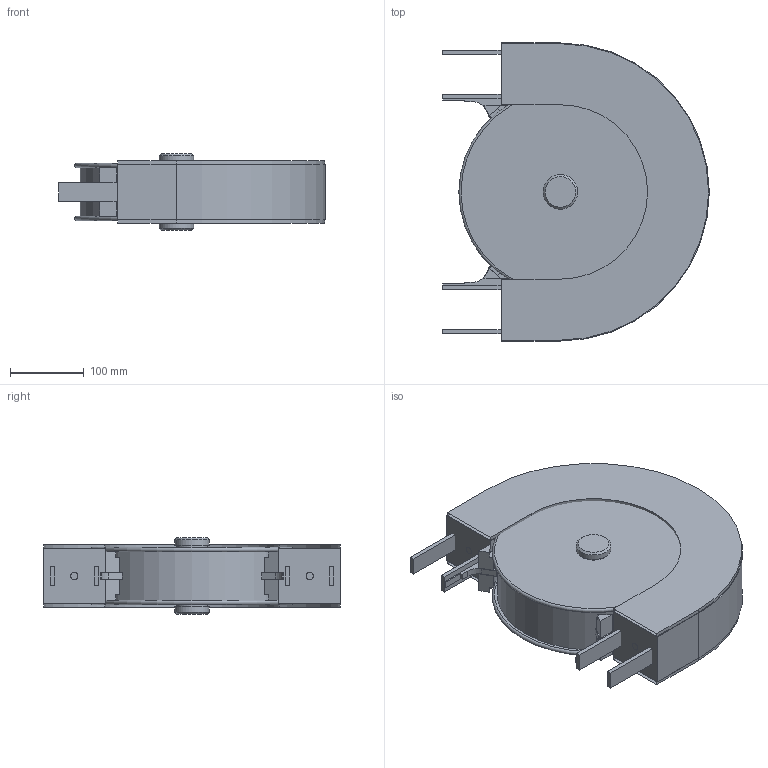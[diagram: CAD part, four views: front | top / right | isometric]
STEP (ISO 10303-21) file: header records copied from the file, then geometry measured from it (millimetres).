
FILE_DESCRIPTION(/* description */ ('Bogenrad 180°'),/* implementation_level */ '2;1');
FILE_NAME(/* name */ 'T:\vdz0\Step Daten Website\modulflex FM-System\Bogenräder\FMBH 180R160 A_43831.stp',/* time_stamp */ '2024-09-03T10:18:34+02:00',/* author */ ('lzb0'),/* organization */ ('modular automation GmbH'),/* preprocessor_version */ 'ST-DEVELOPER v18.1',/* originating_system */ 'Autodesk Inventor 2021',/* authorisation */ '');
FILE_SCHEMA (('AUTOMOTIVE_DESIGN { 1 0 10303 214 3 1 1 }'));
Length unit declared in the file: millimetre
Products named in the file (1): FMBH 180R160 A
Bounding box: 362.5 x 405 x 104 mm (x, y, z)
Volume: 8676805.2 mm3; surface area: 712451.3 mm2
Topology: 8 solids, 12 shells, 123 faces, 289 edges, 192 vertices
Faces by surface type: plane 104, cylinder 15, cone 2, torus 2
Full cylindrical faces by diameter (mm): 10 x2, 42 x2, 47 x2, 262 x1
Entity records: 3581 total; most frequent: CARTESIAN_POINT 612, DIRECTION 577, ORIENTED_EDGE 558, EDGE_CURVE 289, LINE 251, VECTOR 251, VERTEX_POINT 192, AXIS2_PLACEMENT_3D 163
